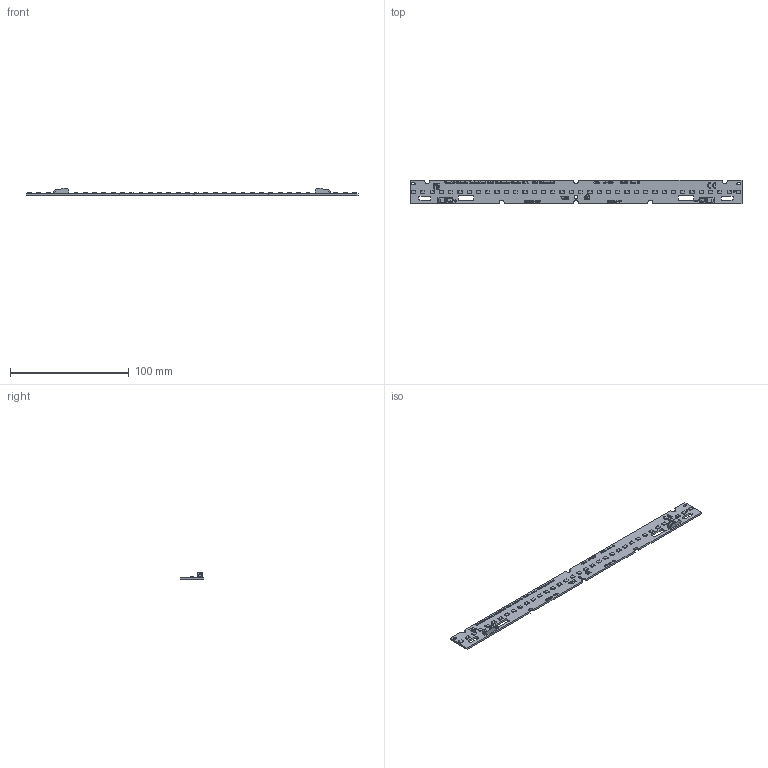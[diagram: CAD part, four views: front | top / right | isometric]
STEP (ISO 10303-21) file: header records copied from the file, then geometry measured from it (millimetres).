
FILE_DESCRIPTION(('Creo Elements/Direct Modeling STEP Export'),'2;1');
FILE_NAME('3D-Model_MLC SC W2_280_36_yzz HE G3_(WU-M-736)_TC.stp','2025-05-08T 9:54:47',(''),(''),'PTC Creo Elements/Direct Modeling STEP processor for AP214 (Solid Model)','PTC Creo Elements/Direct Modeling 19.0E 27-Jun-2016 (C) Parametric Technology GmbH','');
FILE_SCHEMA(('AUTOMOTIVE_DESIGN { 1 0 10303 214 1 1 1 1 }'));
Length unit declared in the file: millimetre
Products named in the file (170): p1.1; p1; PRINT.97; PRINT.100; PRINT.106; PRINT.87; PRINT.96; PRINT.98; PRINT.104; PRINT.101; PRINT.102; PRINT.99; PRINT.107; PRINT.95; PRINT.90; PRINT.85; PRINT.86; PRINT.103; PRINT.105; PRINT.89; PRINT.93; PRINT.88; PRINT.94; PRINT.92; PRINT.91; PRINT.64; PRINT.67; PRINT.68; PRINT.66; PRINT.62; PRINT.63; PRINT.74; PRINT.65; PRINT.75; PRINT.69; PRINT.71; PRINT.72; PRINT.81; PRINT.82; PRINT.84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
Assembly tree (164 placements, depth 2):
  p1.1
  p1
  Print
    PRINT.38
    PRINT.37
    PRINT.32
    PRINT.26
    PRINT.27
    PRINT.22
    PRINT.25
    PRINT.33
    PRINT.35
    PRINT.31
    PRINT.23
    PRINT.21
    PRINT.19
    PRINT.29
    PRINT.24
    PRINT.28
    PRINT.34
    PRINT.30
    PRINT.20
    PRINT.36
    PRINT.39
    PRINT.18
    PRINT.6
    PRINT.15
    PRINT.17
    PRINT.14
    PRINT.13
    PRINT.12
    PRINT.16
    PRINT.10
    PRINT.8
    PRINT.11
    PRINT.7
    PRINT.9
    PRINT.122
    PRINT.124
    PRINT.118
    PRINT.125
    PRINT.112
    PRINT.119
    PRINT.115
    PRINT.108
    PRINT.120
    PRINT.123
    PRINT.109
    PRINT.114
    PRINT.110
    PRINT.121
    PRINT.117
    PRINT.111
    PRINT.113
    PRINT.116
    PRINT.50
    PRINT.43
    PRINT.52
    PRINT.49
    PRINT.55
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Bounding box: 279 x 20 x 6.1 mm (x, y, z)
Volume: 9032.6 mm3; surface area: 13749.5 mm2
Topology: 165 solids, 165 shells, 6284 faces, 17128 edges, 11284 vertices
Faces by surface type: plane 4876, cylinder 1404, sphere 4
Entity records: 128833 total; most frequent: CARTESIAN_POINT 17963, ORIENTED_EDGE 17378, DIRECTION 17022, EDGE_CURVE 8689, VECTOR 6962, LINE 6962, VERTEX_POINT 5789, AXIS2_PLACEMENT_3D 5030
